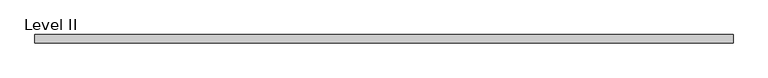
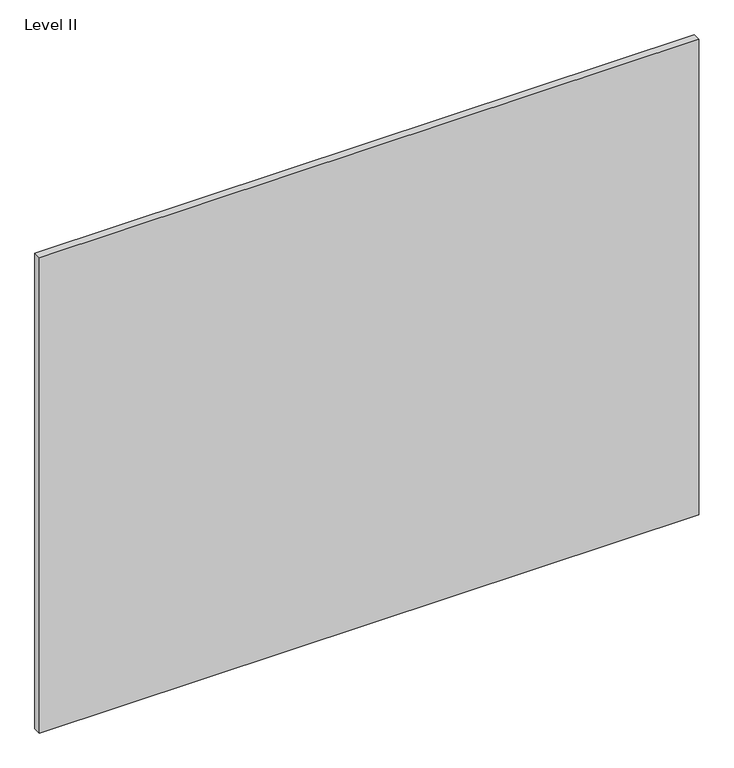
"""IFC4 building model written with IfcOpenShell, lengths in millimetres: proxy geometry, Panel-Fascia-Teknion-Altos-Landscape : Level II."""

from ifc_helpers import new_model, si_unit, frame, origin, place, context, project, spatial, polyline, outline, extrude, source, transform, mapped, element, save


def level_ii_5d745991(model_context):
    return source(origin(), model_context, "Body", "SweptSolid", [
        extrude(outline(polyline([(795.6407125, -9.525), (-795.6407125, -9.525), (-795.6407125, 9.525), (795.6407125, 9.525), (795.6407125, -9.525)])), frame((0.0, 0.0, 3.175), z_axis=(0.0, 0.0, 1.0), x_axis=(1.0, 0.0, 0.0)), (0.0, 0.0, 1.0), 1212.85),
    ])


if __name__ == "__main__":
    model = new_model("IFC4")
    model_context = context("Model", 3, world=origin())
    ifc_project = project(units=[si_unit("LENGTHUNIT", "METRE", prefix="MILLI")], contexts=[model_context])
    site = spatial("IfcSite", under=ifc_project)
    building = spatial("IfcBuilding", under=site)
    placement = place(None, origin())
    level_ii_shape = level_ii_5d745991(model_context)
    element("IfcBuildingElementProxy", 1, Name="Panel-Fascia-Teknion-Altos-Landscape : Level II", ObjectType="Panel-Fascia-Teknion-Altos-Landscape : Level II", at=placement, inside=building, context=model_context, shape_type="MappedRepresentation", body=[
        mapped(level_ii_shape, transform((0.0, 0.0, 0.0), x_axis=(1.0, 0.0, 0.0), y_axis=(0.0, 1.0, 0.0), z_axis=(0.0, 0.0, 1.0))),
    ])
    save(model, "model.ifc")
